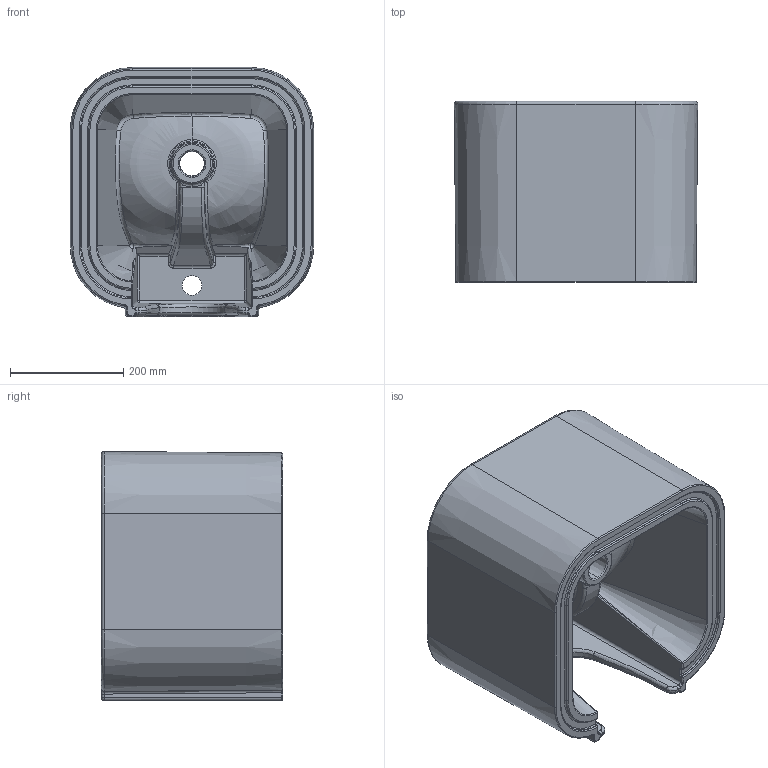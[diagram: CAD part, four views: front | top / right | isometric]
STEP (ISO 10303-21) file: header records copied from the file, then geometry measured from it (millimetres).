
FILE_DESCRIPTION (( 'STEP AP203' ), '1' );
FILE_NAME ('TALP0444300M.STEP', '2019-08-07T15:17:22', ( '' ), ( '' ), 'SwSTEP 2.0', 'SolidWorks 2019', '' );
FILE_SCHEMA (( 'CONFIG_CONTROL_DESIGN' ));
Length unit declared in the file: millimetre
Products named in the file (1): TALP0444300M
Bounding box: 429.91 x 320 x 439.96 mm (x, y, z)
Volume: 24309632 mm3; surface area: 1160411.1 mm2
Topology: 1 solids, 1 shells, 272 faces, 661 edges, 376 vertices
Faces by surface type: bspline 74, cylinder 73, torus 61, plane 34, cone 16, sphere 14
Entity records: 61291 total; most frequent: CARTESIAN_POINT 55419, ORIENTED_EDGE 1290, DIRECTION 1171, EDGE_CURVE 645, AXIS2_PLACEMENT_3D 506, VERTEX_POINT 376, CIRCLE 307, EDGE_LOOP 281
